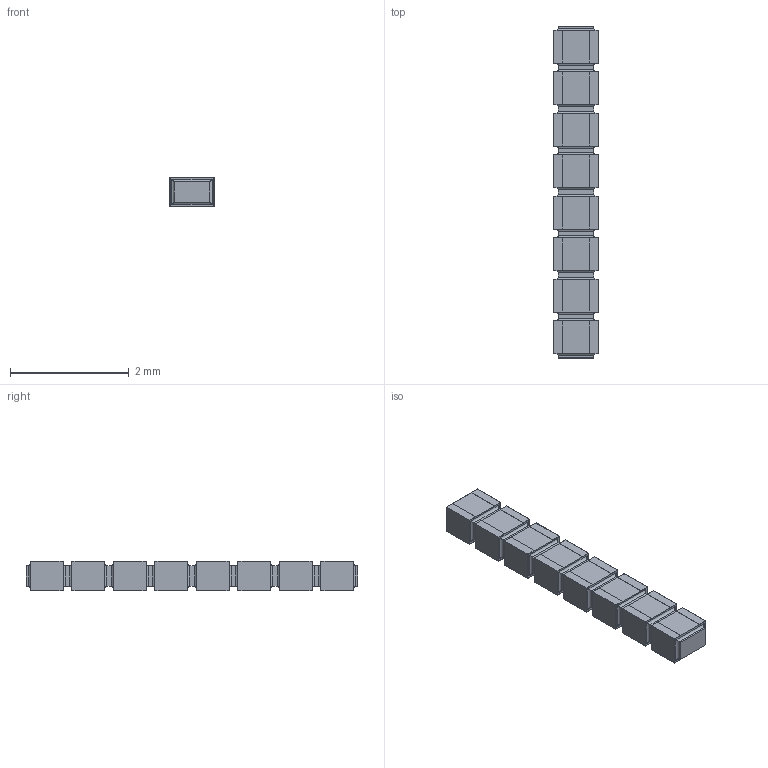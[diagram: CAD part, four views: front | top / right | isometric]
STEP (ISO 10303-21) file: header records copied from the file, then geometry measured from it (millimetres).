
FILE_DESCRIPTION(/* description */ (''),/* implementation_level */ '2;1');
FILE_NAME(/* name */ 'S:\DOCUMENT\AUTOCAD\3D_Modèles\10_3D-pour-VISHAY-COM\PRA\PRA073\PRA073-I2_à_I8\10_IGES\PRA073I8_B-or-N-or-G.stp',/* time_stamp */ '2017-12-21T10:48:30+01:00',/* author */ ('dparmentier'),/* organization */ ('unknown'),/* preprocessor_version */ 'ST-DEVELOPER v17',/* originating_system */ 'Autodesk Inventor 2018',/* authorisation */ '');
FILE_SCHEMA (('AUTOMOTIVE_DESIGN { 1 0 10303 214 3 1 1 }'));
Length unit declared in the file: millimetre
Products named in the file (1): PRA073I8_B-or-N-or-G
Bounding box: 0.75 x 5.6 x 0.5 mm (x, y, z)
Volume: 1.9 mm3; surface area: 29.6 mm2
Topology: 17 solids, 17 shells, 310 faces, 716 edges, 456 vertices
Faces by surface type: plane 246, cylinder 64
Entity records: 8609 total; most frequent: CARTESIAN_POINT 1483, ORIENTED_EDGE 1432, DIRECTION 1402, EDGE_CURVE 716, LINE 652, VECTOR 652, VERTEX_POINT 456, AXIS2_PLACEMENT_3D 375
